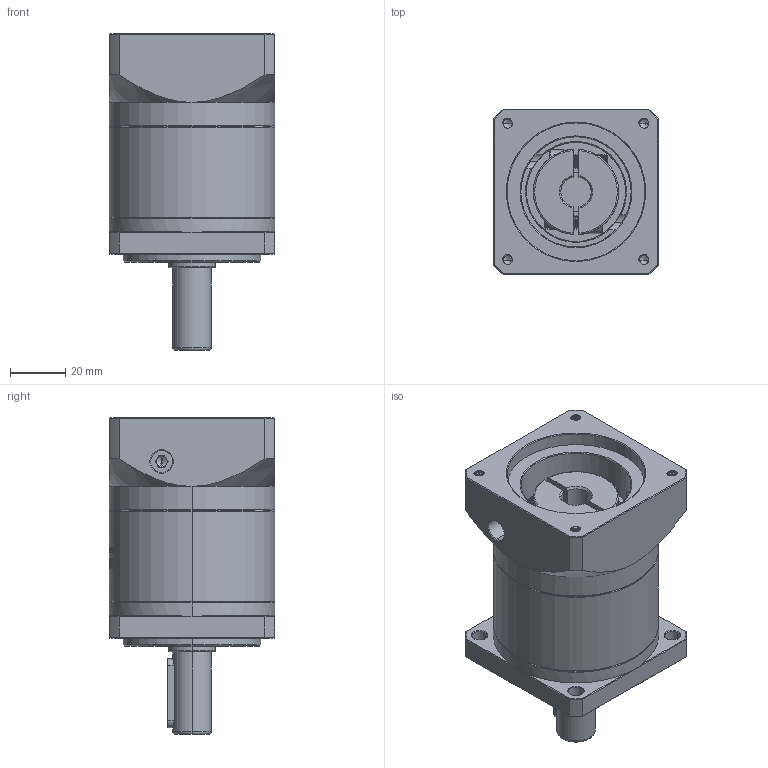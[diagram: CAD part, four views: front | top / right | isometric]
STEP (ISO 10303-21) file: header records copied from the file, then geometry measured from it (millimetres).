
FILE_DESCRIPTION (( 'STEP AP214' ), '1' );
FILE_NAME ('ZF60-D14-L1-11-50-70-M4.STEP', '2022-04-17T11:34:47', ( '' ), ( 'Microsoft' ), 'SwSTEP 2.0', 'SolidWorks 2016', '' );
FILE_SCHEMA (( 'AUTOMOTIVE_DESIGN' ));
Length unit declared in the file: millimetre
Products named in the file (1): ZF60-D14-L1-11-50-70-M4
Bounding box: 60 x 60 x 115 mm (x, y, z)
Volume: 221605.7 mm3; surface area: 43721.8 mm2
Topology: 6 solids, 6 shells, 1624 faces, 4387 edges, 2839 vertices
Faces by surface type: plane 744, cylinder 327, bspline 299, cone 234, torus 20
Entity records: 89104 total; most frequent: CARTESIAN_POINT 34108, ORIENTED_EDGE 8746, DIRECTION 6431, EDGE_CURVE 4373, VERTEX_POINT 2839, VECTOR 2219, LINE 2219, AXIS2_PLACEMENT_3D 2106
